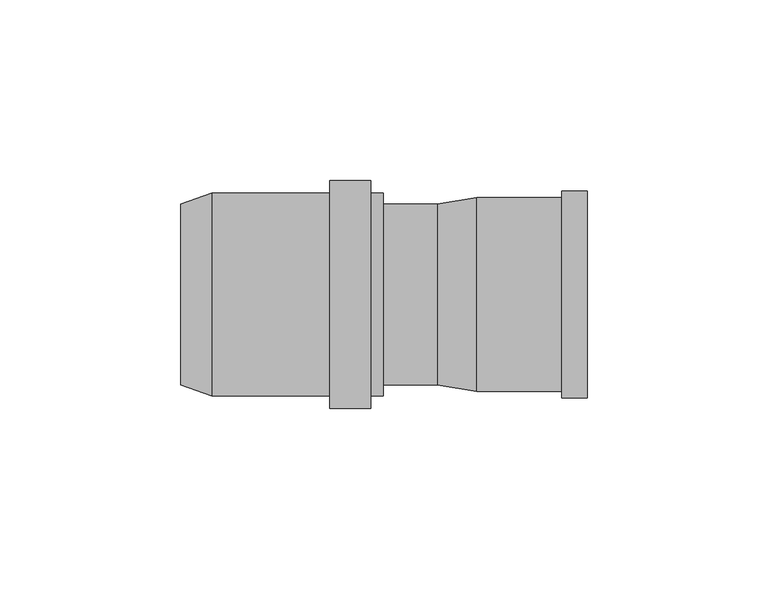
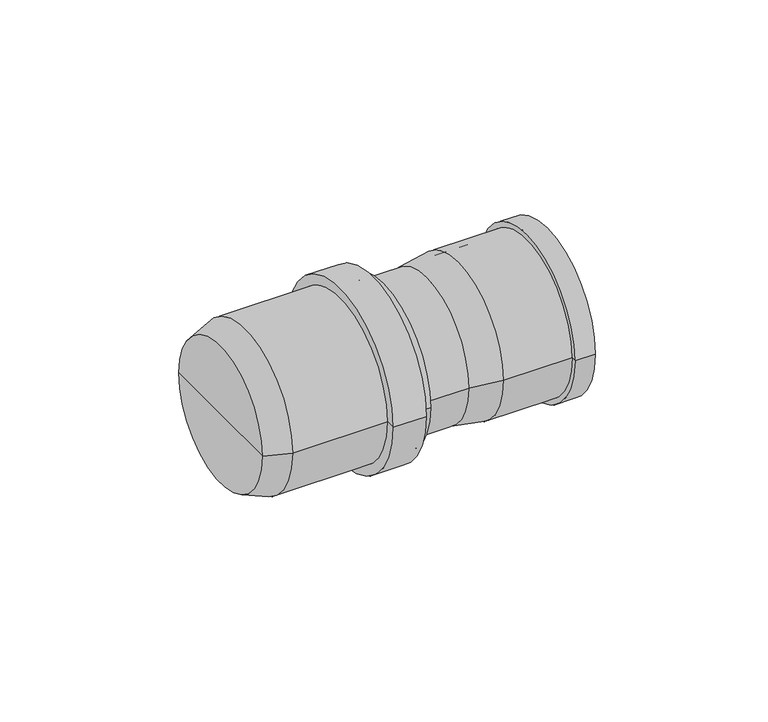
"""IFC4 building model written with IfcOpenShell, lengths in millimetres: pipe fitting geometry, pf_HTS : pf_HTS."""

from ifc_helpers import new_model, si_unit, point, frame, origin, origin_2d, place, context, project, spatial, polyline, circle_curve, trimmed, segment, composite_curve, outline, extrude, source, transform, mapped, element, save
from ifc_brep_helpers import plane_surface, cylinder_surface, revolved_surface, advanced_brep


def pipe_fitting_2cff288d(model_context):
    return source(origin(), model_context, "Body", "SolidModel", [
        advanced_brep(
        [(-70.9, -25.0, 0.0), (-70.9, 25.0, 0.0), (-62.4, 28.1, 0.0), (-62.4, -28.1, 0.0), (-70.9, 0.0, 0.0), (-14.9, -28.1, 0.0), (-14.9, 28.1, 0.0), (-14.9, 25.0, 0.0), (-14.9, -25.0, 0.0), (-18.3, -28.1, 0.0), (-18.3, 28.1, 0.0), (-18.3, -31.5, 0.0), (-18.3, 31.5, 0.0), (-29.7, -31.5, 0.0), (-29.7, 31.5, 0.0), (-29.7, -28.1, 0.0), (-29.7, 28.1, 0.0), (-62.4, -25.0, 0.0), (-62.4, 25.0, 0.0), (-62.4, 0.0, 0.0)],
        [
            (0, 1, circle_curve(frame((-70.9, 0.0, 0.0), z_axis=(1.0, 0.0, 0.0), x_axis=(0.0, 1.0, 0.0)), 25.0)),
            (1, 2),
            (2, 3, circle_curve(frame((-62.4, 0.0, 0.0), z_axis=(-1.0, 0.0, 0.0), x_axis=(0.0, 1.0, 0.0)), 28.1)),
            (3, 0),
            (1, 0, circle_curve(frame((-70.9, 0.0, 0.0), z_axis=(1.0, 0.0, 0.0), x_axis=(0.0, 1.0, 0.0)), 25.0)),
            (3, 2, circle_curve(frame((-62.4, 0.0, 0.0), z_axis=(-1.0, 0.0, 0.0), x_axis=(0.0, 1.0, 0.0)), 28.1)),
            (4, 1),
            (0, 4),
            (5, 6, circle_curve(frame((-14.9, 0.0, 0.0), z_axis=(1.0, 0.0, 0.0), x_axis=(0.0, 1.0, 0.0)), 28.1)),
            (6, 7),
            (7, 8, circle_curve(frame((-14.9, 0.0, 0.0), z_axis=(-1.0, 0.0, 0.0), x_axis=(0.0, 1.0, 0.0)), 25.0)),
            (8, 5),
            (6, 5, circle_curve(frame((-14.9, 0.0, 0.0), z_axis=(1.0, 0.0, 0.0), x_axis=(0.0, 1.0, 0.0)), 28.1)),
            (8, 7, circle_curve(frame((-14.9, 0.0, 0.0), z_axis=(-1.0, 0.0, 0.0), x_axis=(0.0, 1.0, 0.0)), 25.0)),
            (9, 10, circle_curve(frame((-18.3, 0.0, 0.0), z_axis=(1.0, 0.0, 0.0), x_axis=(0.0, 1.0, 0.0)), 28.1)),
            (10, 6),
            (5, 9),
            (10, 9, circle_curve(frame((-18.3, 0.0, 0.0), z_axis=(1.0, 0.0, 0.0), x_axis=(0.0, 1.0, 0.0)), 28.1)),
            (11, 12, circle_curve(frame((-18.3, 0.0, 0.0), z_axis=(1.0, 0.0, 0.0), x_axis=(0.0, 1.0, 0.0)), 31.5)),
            (12, 10),
            (9, 11),
            (12, 11, circle_curve(frame((-18.3, 0.0, 0.0), z_axis=(1.0, 0.0, 0.0), x_axis=(0.0, 1.0, 0.0)), 31.5)),
            (13, 14, circle_curve(frame((-29.7, 0.0, 0.0), z_axis=(1.0, 0.0, 0.0), x_axis=(0.0, 1.0, 0.0)), 31.5)),
            (14, 12),
            (11, 13),
            (14, 13, circle_curve(frame((-29.7, 0.0, 0.0), z_axis=(1.0, 0.0, 0.0), x_axis=(0.0, 1.0, 0.0)), 31.5)),
            (15, 16, circle_curve(frame((-29.7, 0.0, 0.0), z_axis=(1.0, 0.0, 0.0), x_axis=(0.0, 1.0, 0.0)), 28.1)),
            (16, 14),
            (13, 15),
            (16, 15, circle_curve(frame((-29.7, 0.0, 0.0), z_axis=(1.0, 0.0, 0.0), x_axis=(0.0, 1.0, 0.0)), 28.1)),
            (2, 16),
            (15, 3),
            (17, 18, circle_curve(frame((-62.4, 0.0, 0.0), z_axis=(1.0, 0.0, 0.0), x_axis=(0.0, 1.0, 0.0)), 25.0)),
            (18, 19),
            (19, 17),
            (18, 17, circle_curve(frame((-62.4, 0.0, 0.0), z_axis=(1.0, 0.0, 0.0), x_axis=(0.0, 1.0, 0.0)), 25.0)),
            (7, 18),
            (17, 8),
        ],
        [
            revolved_surface(polyline([(-62.4, 28.1, 0.0), (-70.9, 25.0, 0.0)]), (-70.9, 0.0, 0.0), (-1.0, 0.0, 0.0)),
            plane_surface(frame((-70.9, 0.0, 0.0), z_axis=(-1.0, 0.0, 0.0), x_axis=(0.0, 1.0, 0.0))),
            plane_surface(frame((-14.9, 0.0, 0.0), z_axis=(1.0, 0.0, 0.0), x_axis=(0.0, 1.0, 0.0))),
            cylinder_surface(frame((-70.9, 0.0, 0.0), z_axis=(-1.0, 0.0, 0.0), x_axis=(0.0, 1.0, 0.0)), 28.1),
            plane_surface(frame((-18.3, 0.0, 0.0), z_axis=(1.0, 0.0, 0.0), x_axis=(0.0, 1.0, 0.0))),
            cylinder_surface(frame((-70.9, 0.0, 0.0), z_axis=(-1.0, 0.0, 0.0), x_axis=(0.0, 1.0, 0.0)), 31.5),
            plane_surface(frame((-29.7, 0.0, 0.0), z_axis=(-1.0, 0.0, 0.0), x_axis=(0.0, 1.0, 0.0))),
            plane_surface(frame((-62.4, 0.0, 0.0), z_axis=(1.0, 0.0, 0.0), x_axis=(0.0, 1.0, 0.0))),
            revolved_surface(polyline([(-62.4, 25.0, 0.0), (-14.899999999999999, 25.0, 0.0)]), (-70.9, 0.0, 0.0), (-1.0, 0.0, 0.0)),
        ],
        [
            (0, [[1, 2, 3, 4]]),
            (0, [[5, -4, 6, -2]]),
            (1, [[7, -1, 8]]),
            (1, [[-8, -5, -7]]),
            (2, [[9, 10, 11, 12]]),
            (2, [[13, -12, 14, -10]]),
            (3, [[15, 16, -9, 17]]),
            (3, [[18, -17, -13, -16]]),
            (4, [[19, 20, -15, 21]]),
            (4, [[22, -21, -18, -20]]),
            (5, [[23, 24, -19, 25]]),
            (5, [[26, -25, -22, -24]]),
            (6, [[27, 28, -23, 29]]),
            (6, [[30, -29, -26, -28]]),
            (3, [[-3, 31, -27, 32]]),
            (3, [[-6, -32, -30, -31]]),
            (7, [[33, 34, 35]]),
            (7, [[36, -35, -34]]),
            (8, [[-11, 37, -33, 38]]),
            (8, [[-14, -38, -36, -37]]),
        ],
    ),
        extrude(outline(composite_curve([segment(trimmed(circle_curve(origin_2d(), 25.0), [point((-25.0, 0.0))], [point((25.0, 0.0))], False, "CARTESIAN"), True, "CONTINUOUS"), segment(trimmed(circle_curve(origin_2d(), 25.0), [point((25.0, 0.0))], [point((-25.0, 0.0))], False, "CARTESIAN"), True, "CONTINUOUS")], self_intersect=False)), frame((-14.9, 0.0, 0.0), z_axis=(1.0, 0.0, 0.0), x_axis=(0.0, 1.0, 0.0)), (0.0, 0.0, 1.0), 14.9),
        advanced_brep(
        [(41.5, -25.0, 0.0), (41.5, 25.0, 0.0), (11.0, 25.0, 0.0), (11.0, -25.0, 0.0), (41.5, -28.6, 0.0), (41.5, 28.6, 0.0), (11.0, -26.8, 0.0), (11.0, 26.8, 0.0), (34.5184027, 26.8, 0.0), (34.5184027, -26.8, 0.0), (0.0, -25.0, 0.0), (0.0, 25.0, 0.0), (0.0, 0.0, 0.0), (34.5184027, 28.6, 0.0), (34.5184027, -28.6, 0.0), (11.0, 0.0, 0.0)],
        [
            (0, 1, circle_curve(frame((41.5, 0.0, 0.0), z_axis=(1.0, 0.0, 0.0), x_axis=(0.0, 1.0, 0.0)), 25.0)),
            (1, 2),
            (2, 3, circle_curve(frame((11.0, 0.0, 0.0), z_axis=(-1.0, 0.0, 0.0), x_axis=(0.0, 1.0, 0.0)), 25.0)),
            (3, 0),
            (4, 5, circle_curve(frame((41.5, 0.0, 0.0), z_axis=(1.0, 0.0, 0.0), x_axis=(0.0, 1.0, 0.0)), 28.6)),
            (5, 1),
            (0, 4),
            (6, 7, circle_curve(frame((11.0, 0.0, 0.0), z_axis=(1.0, 0.0, 0.0), x_axis=(0.0, 1.0, 0.0)), 26.8)),
            (7, 8),
            (8, 9, circle_curve(frame((34.5184027, 0.0, 0.0), z_axis=(-1.0, 0.0, 0.0), x_axis=(0.0, 1.0, 0.0)), 26.8)),
            (9, 6),
            (10, 11, circle_curve(frame((0.0, 0.0, 0.0), z_axis=(1.0, 0.0, 0.0), x_axis=(0.0, 1.0, 0.0)), 25.0)),
            (11, 7),
            (6, 10),
            (12, 11),
            (10, 12),
            (8, 13),
            (13, 14, circle_curve(frame((34.5184027, 0.0, 0.0), z_axis=(-1.0, 0.0, 0.0), x_axis=(0.0, 1.0, 0.0)), 28.6)),
            (14, 9),
            (1, 0, circle_curve(frame((41.5, 0.0, 0.0), z_axis=(1.0, 0.0, 0.0), x_axis=(0.0, 1.0, 0.0)), 25.0)),
            (3, 2, circle_curve(frame((11.0, 0.0, 0.0), z_axis=(-1.0, 0.0, 0.0), x_axis=(0.0, 1.0, 0.0)), 25.0)),
            (5, 4, circle_curve(frame((41.5, 0.0, 0.0), z_axis=(1.0, 0.0, 0.0), x_axis=(0.0, 1.0, 0.0)), 28.6)),
            (13, 5),
            (4, 14),
            (13, 14, circle_curve(frame((34.5184027, 0.0, 0.0), z_axis=(1.0, 0.0, 0.0), x_axis=(0.0, 1.0, 0.0)), 28.6)),
            (8, 9, circle_curve(frame((34.5184027, 0.0, 0.0), z_axis=(1.0, 0.0, 0.0), x_axis=(0.0, 1.0, 0.0)), 26.8)),
            (7, 6, circle_curve(frame((11.0, 0.0, 0.0), z_axis=(1.0, 0.0, 0.0), x_axis=(0.0, 1.0, 0.0)), 26.8)),
            (11, 10, circle_curve(frame((0.0, 0.0, 0.0), z_axis=(1.0, 0.0, 0.0), x_axis=(0.0, 1.0, 0.0)), 25.0)),
            (2, 15),
            (15, 3),
        ],
        [
            revolved_surface(polyline([(11.0, 25.0, 0.0), (41.5, 25.0, 0.0)]), (47.5, 0.0, 0.0), (-1.0, 0.0, 0.0)),
            plane_surface(frame((41.5, 0.0, 0.0), z_axis=(1.0, 0.0, 0.0), x_axis=(0.0, 1.0, 0.0))),
            cylinder_surface(frame((47.5, 0.0, 0.0), z_axis=(-1.0, 0.0, 0.0), x_axis=(0.0, 1.0, 0.0)), 26.8),
            revolved_surface(polyline([(11.0, 26.8, 0.0), (0.0, 25.0, 0.0)]), (47.5, 0.0, 0.0), (-1.0, 0.0, 0.0)),
            plane_surface(frame((0.0, 0.0, 0.0), z_axis=(-1.0, 0.0, 0.0), x_axis=(0.0, 1.0, 0.0))),
            plane_surface(frame((34.5184027, 0.0, 0.0), z_axis=(-1.0, 0.0, 0.0), x_axis=(0.0, 1.0, 0.0))),
            cylinder_surface(frame((47.5, 0.0, 0.0), z_axis=(-1.0, 0.0, 0.0), x_axis=(0.0, 1.0, 0.0)), 28.6),
            plane_surface(frame((11.0, 0.0, 0.0), z_axis=(1.0, 0.0, 0.0), x_axis=(0.0, 1.0, 0.0))),
        ],
        [
            (0, [[1, 2, 3, 4]]),
            (1, [[5, 6, -1, 7]]),
            (2, [[8, 9, 10, 11]]),
            (3, [[12, 13, -8, 14]]),
            (4, [[15, -12, 16]]),
            (5, [[-10, 17, 18, 19]]),
            (0, [[20, -4, 21, -2]]),
            (1, [[22, -7, -20, -6]]),
            (6, [[-18, 23, -5, 24]]),
            (6, [[25, -24, -22, -23]]),
            (5, [[26, -19, -25, -17]]),
            (2, [[27, -11, -26, -9]]),
            (3, [[28, -14, -27, -13]]),
            (4, [[-16, -28, -15]]),
            (7, [[-3, 29, 30]]),
            (7, [[-21, -30, -29]]),
        ],
    ),
    ])


if __name__ == "__main__":
    model = new_model("IFC4")
    model_context = context("Model", 3, world=origin())
    ifc_project = project(units=[si_unit("LENGTHUNIT", "METRE", prefix="MILLI")], contexts=[model_context])
    site = spatial("IfcSite", under=ifc_project)
    building = spatial("IfcBuilding", under=site)
    placement = place(None, origin())
    pipe_fitting_shape = pipe_fitting_2cff288d(model_context)
    element("IfcPipeFitting", 1, ObjectType="pf_HTS : pf_HTS", at=placement, inside=building, context=model_context, shape_type="MappedRepresentation", body=[
        mapped(pipe_fitting_shape, transform((0.0, 0.0, 0.0), x_axis=(1.0, 0.0, 0.0), y_axis=(0.0, 1.0, 0.0), z_axis=(0.0, 0.0, 1.0))),
    ])
    save(model, "model.ifc")
